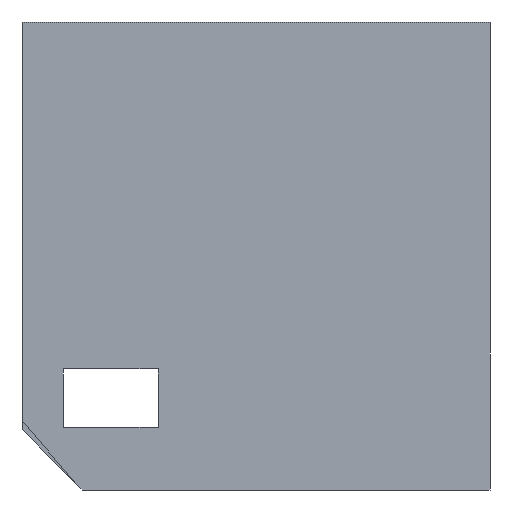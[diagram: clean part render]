
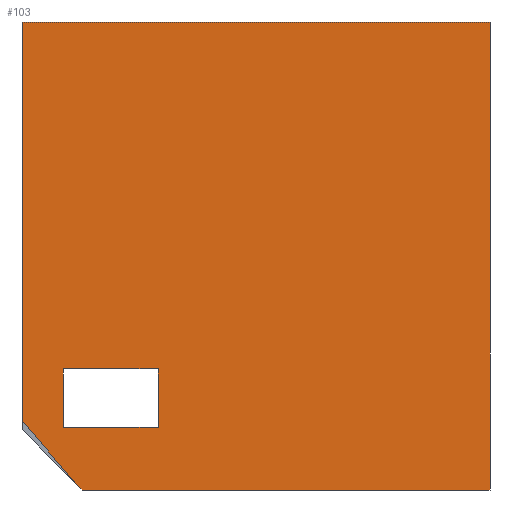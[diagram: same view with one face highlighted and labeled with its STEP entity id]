
A CAD part, front view. The second image highlights one B-rep face of the part: STEP entity #103.
In plain terms, the highlighted planar face has unit normal (0, -1, 0).
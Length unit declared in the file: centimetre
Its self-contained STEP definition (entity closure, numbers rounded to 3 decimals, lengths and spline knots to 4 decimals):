
#16 = ORIENTED_EDGE ( 'NONE', *, *, #903, .F. ) ;
#66 = DIRECTION ( 'NONE',  ( 1., 0., 0. ) ) ;
#74 = LINE ( 'NONE', #528, #426 ) ;
#76 = LINE ( 'NONE', #822, #296 ) ;
#103 = ADVANCED_FACE ( 'NONE', ( #362, #368 ), #171, .F. ) ;
#113 = DIRECTION ( 'NONE',  ( -0.651, 0., 0.759 ) ) ;
#131 = VECTOR ( 'NONE', #412, 100. ) ;
#140 = CARTESIAN_POINT ( 'NONE',  ( 0., 0., 1000. ) ) ;
#155 = ORIENTED_EDGE ( 'NONE', *, *, #1099, .T. ) ;
#166 = CARTESIAN_POINT ( 'NONE',  ( 0., 0., 128.525 ) ) ;
#171 = PLANE ( 'NONE',  #696 ) ;
#202 = LINE ( 'NONE', #572, #965 ) ;
#281 = VERTEX_POINT ( 'NONE', #770 ) ;
#296 = VECTOR ( 'NONE', #66, 100. ) ;
#305 = VECTOR ( 'NONE', #778, 100. ) ;
#319 = EDGE_CURVE ( 'NONE', #492, #281, #1002, .T. ) ;
#331 = CARTESIAN_POINT ( 'NONE',  ( 88.4638, 0., 134.2105 ) ) ;
#342 = VERTEX_POINT ( 'NONE', #1109 ) ;
#352 = DIRECTION ( 'NONE',  ( 0., 1., 0. ) ) ;
#357 = VECTOR ( 'NONE', #539, 100. ) ;
#358 = DIRECTION ( 'NONE',  ( 1., 0., 0. ) ) ;
#362 = FACE_BOUND ( 'NONE', #444, .T. ) ;
#368 = FACE_OUTER_BOUND ( 'NONE', #453, .T. ) ;
#378 = EDGE_CURVE ( 'NONE', #761, #674, #76, .T. ) ;
#381 = CARTESIAN_POINT ( 'NONE',  ( 290.9063, 0., 258.5825 ) ) ;
#385 = CARTESIAN_POINT ( 'NONE',  ( 290.9063, 0., 134.2105 ) ) ;
#412 = DIRECTION ( 'NONE',  ( 0., 0., -1. ) ) ;
#414 = ORIENTED_EDGE ( 'NONE', *, *, #1063, .T. ) ;
#417 = LINE ( 'NONE', #701, #775 ) ;
#419 = VERTEX_POINT ( 'NONE', #751 ) ;
#426 = VECTOR ( 'NONE', #358, 100. ) ;
#444 = EDGE_LOOP ( 'NONE', ( #867, #16, #565, #716 ) ) ;
#453 = EDGE_LOOP ( 'NONE', ( #719, #820, #414, #155, #1115, #681 ) ) ;
#470 = CARTESIAN_POINT ( 'NONE',  ( 0., 0., 148.1224 ) ) ;
#492 = VERTEX_POINT ( 'NONE', #381 ) ;
#516 = VERTEX_POINT ( 'NONE', #385 ) ;
#528 = CARTESIAN_POINT ( 'NONE',  ( 0., 0., 0. ) ) ;
#529 = VERTEX_POINT ( 'NONE', #763 ) ;
#539 = DIRECTION ( 'NONE',  ( -1., 0., 0. ) ) ;
#544 = DIRECTION ( 'NONE',  ( 0.707, 0., -0.707 ) ) ;
#565 = ORIENTED_EDGE ( 'NONE', *, *, #319, .F. ) ;
#572 = CARTESIAN_POINT ( 'NONE',  ( 0., 0., 148.1224 ) ) ;
#583 = CARTESIAN_POINT ( 'NONE',  ( 1000., 0., 1000. ) ) ;
#596 = EDGE_CURVE ( 'NONE', #674, #342, #1144, .T. ) ;
#646 = CARTESIAN_POINT ( 'NONE',  ( 0., 0., 1000. ) ) ;
#674 = VERTEX_POINT ( 'NONE', #583 ) ;
#677 = EDGE_CURVE ( 'NONE', #419, #730, #202, .T. ) ;
#681 = ORIENTED_EDGE ( 'NONE', *, *, #378, .F. ) ;
#682 = DIRECTION ( 'NONE',  ( 1., 0., 0. ) ) ;
#696 = AXIS2_PLACEMENT_3D ( 'NONE', #646, #352, #826 ) ;
#699 = CARTESIAN_POINT ( 'NONE',  ( 128.525, 0., 0. ) ) ;
#701 = CARTESIAN_POINT ( 'NONE',  ( 290.9063, 0., 134.2105 ) ) ;
#708 = DIRECTION ( 'NONE',  ( 0., 0., 1. ) ) ;
#716 = ORIENTED_EDGE ( 'NONE', *, *, #1147, .F. ) ;
#719 = ORIENTED_EDGE ( 'NONE', *, *, #930, .T. ) ;
#730 = VERTEX_POINT ( 'NONE', #470 ) ;
#750 = CARTESIAN_POINT ( 'NONE',  ( 0., 0., 1000. ) ) ;
#751 = CARTESIAN_POINT ( 'NONE',  ( 118.6037, 0., 9.9214 ) ) ;
#757 = VECTOR ( 'NONE', #682, 100. ) ;
#761 = VERTEX_POINT ( 'NONE', #750 ) ;
#763 = CARTESIAN_POINT ( 'NONE',  ( 88.4638, 0., 134.2105 ) ) ;
#770 = CARTESIAN_POINT ( 'NONE',  ( 88.4638, 0., 258.5825 ) ) ;
#775 = VECTOR ( 'NONE', #708, 100. ) ;
#778 = DIRECTION ( 'NONE',  ( 0., 0., -1. ) ) ;
#792 = VECTOR ( 'NONE', #1142, 100. ) ;
#793 = LINE ( 'NONE', #140, #131 ) ;
#820 = ORIENTED_EDGE ( 'NONE', *, *, #677, .F. ) ;
#822 = CARTESIAN_POINT ( 'NONE',  ( 0., 0., 1000. ) ) ;
#826 = DIRECTION ( 'NONE',  ( 0., 0., 1. ) ) ;
#836 = VERTEX_POINT ( 'NONE', #699 ) ;
#864 = CARTESIAN_POINT ( 'NONE',  ( 1000., 0., 1000. ) ) ;
#867 = ORIENTED_EDGE ( 'NONE', *, *, #876, .F. ) ;
#876 = EDGE_CURVE ( 'NONE', #529, #516, #954, .T. ) ;
#900 = LINE ( 'NONE', #166, #1065 ) ;
#903 = EDGE_CURVE ( 'NONE', #281, #529, #1146, .T. ) ;
#930 = EDGE_CURVE ( 'NONE', #761, #730, #793, .T. ) ;
#954 = LINE ( 'NONE', #1066, #757 ) ;
#965 = VECTOR ( 'NONE', #113, 100. ) ;
#1002 = LINE ( 'NONE', #1098, #357 ) ;
#1063 = EDGE_CURVE ( 'NONE', #419, #836, #900, .T. ) ;
#1065 = VECTOR ( 'NONE', #544, 100. ) ;
#1066 = CARTESIAN_POINT ( 'NONE',  ( 88.4638, 0., 134.2105 ) ) ;
#1098 = CARTESIAN_POINT ( 'NONE',  ( 88.4638, 0., 258.5825 ) ) ;
#1099 = EDGE_CURVE ( 'NONE', #836, #342, #74, .T. ) ;
#1109 = CARTESIAN_POINT ( 'NONE',  ( 1000., 0., 0. ) ) ;
#1115 = ORIENTED_EDGE ( 'NONE', *, *, #596, .F. ) ;
#1142 = DIRECTION ( 'NONE',  ( 0., 0., -1. ) ) ;
#1144 = LINE ( 'NONE', #864, #305 ) ;
#1146 = LINE ( 'NONE', #331, #792 ) ;
#1147 = EDGE_CURVE ( 'NONE', #516, #492, #417, .T. ) ;
